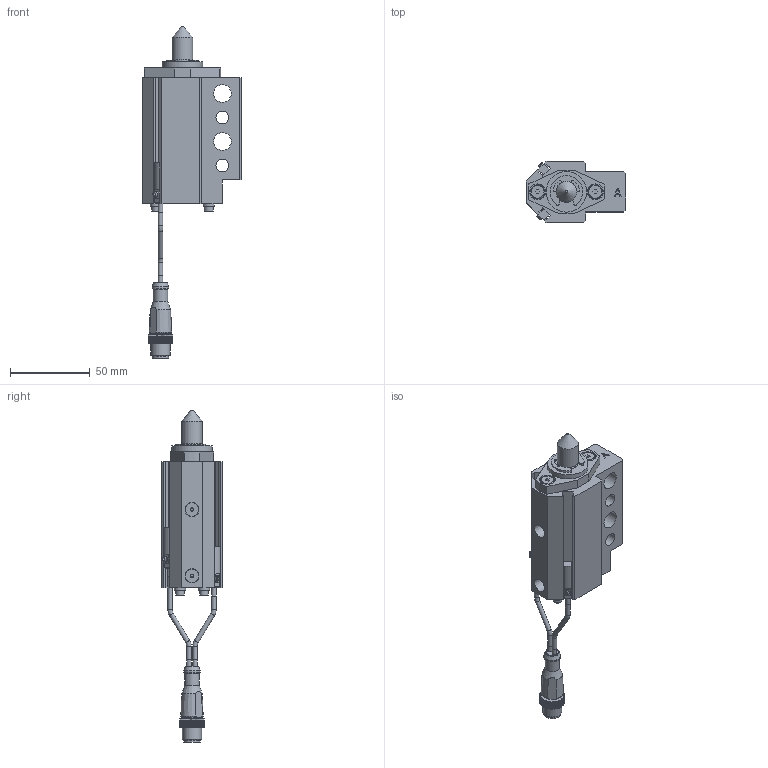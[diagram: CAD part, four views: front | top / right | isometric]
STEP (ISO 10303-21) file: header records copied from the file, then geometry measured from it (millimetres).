
FILE_DESCRIPTION(/* description */ ('NAAMS FLOATING MICRO PIN'),/* implementation_level */ '2;1');
FILE_NAME(/* name */ 'C:\Vault Workspace\CAD\Welker\Shot Pin\NMP\NMP130012AANL3.stp',/* time_stamp */ '2021-01-27T10:58:41-05:00',/* author */ ('WELKER'),/* organization */ (''),/* preprocessor_version */ 'ST-DEVELOPER v18.1',/* originating_system */ 'Autodesk Inventor 2020',/* authorisation */ '');
FILE_SCHEMA (('AUTOMOTIVE_DESIGN { 1 0 10303 214 3 1 1 }'));
Length unit declared in the file: millimetre
Products named in the file (16): NMPL01; NMP L3 SWITCH; L3 Connector; L3 Sensor 1; L3 Sensor 2; L3 Sensor cable; L3 Sensor cable 2; M3X0.5-8 SHCS; NL3; NMPE06; NMPE03; NMPE05-DIA-LENGTH; 985432A218; NMPE01A-PORT; RMPE02; M5X5 SHOULDER
Assembly tree (22 placements, depth 3):
  NMPL01
    NMP L3 SWITCH
      L3 Connector
      L3 Sensor 1
      L3 Sensor 2
      L3 Sensor cable
      L3 Sensor cable 2
    M3X0.5-8 SHCS  x4
    NL3  x4
    NMPE06
    NMPE03
    NMPE05-DIA-LENGTH
    985432A218
    NMPE01A-PORT
    RMPE02
    M5X5 SHOULDER  x2
Bounding box: 62 x 38.1 x 207.71 mm (x, y, z)
Volume: 109751.8 mm3; surface area: 45618.5 mm2
Topology: 21 solids, 21 shells, 742 faces, 2013 edges, 1345 vertices
Faces by surface type: plane 552, cylinder 143, cone 31, torus 11, sphere 3, bspline 2
Full cylindrical faces by diameter (mm): 2 x2, 2.459 x4, 2.9 x10, 3 x5, 3.242 x2, 3.4 x4, 4 x2, 5 x6, 5.5 x4, 7 x4, 8 x2, 8.3 x2, 9 x3, 10 x3, 10.4 x1, 10.5 x1, 11 x2, 12 x1, 13 x3, 16 x2, 19.05 x3, 21 x1, 22.5 x1, 23.672 x1, 24 x1, 25.4 x1, 25.5 x1, 26.5 x1, 28.677 x1, 29.21 x1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
Entity records: 22687 total; most frequent: CARTESIAN_POINT 4144, ORIENTED_EDGE 3724, DIRECTION 3704, EDGE_CURVE 1862, LINE 1382, VECTOR 1382, VERTEX_POINT 1250, AXIS2_PLACEMENT_3D 1161
